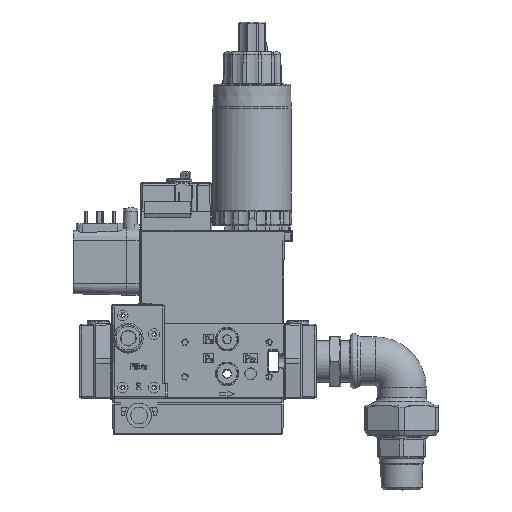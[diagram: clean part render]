
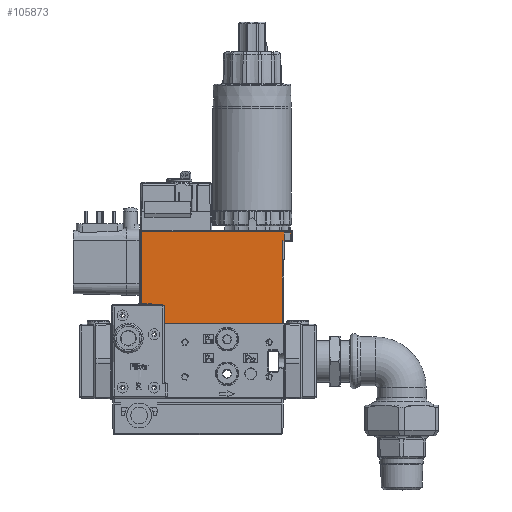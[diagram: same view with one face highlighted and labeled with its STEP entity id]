
A CAD part, top view. The second image highlights one B-rep face of the part: STEP entity #105873.
In plain terms, the highlighted planar face has unit normal (0, -0.006, 1).
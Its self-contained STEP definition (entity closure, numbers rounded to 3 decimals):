
#976 = DIRECTION ( 'NONE',  ( 0.006, -1., -0.006 ) ) ;
#1155 = EDGE_CURVE ( 'NONE', #57394, #39606, #17053, .T. ) ;
#1590 = EDGE_CURVE ( 'NONE', #80376, #73878, #94776, .T. ) ;
#1740 = DIRECTION ( 'NONE',  ( 1., 0., 0. ) ) ;
#2260 = ORIENTED_EDGE ( 'NONE', *, *, #85683, .T. ) ;
#2694 = CARTESIAN_POINT ( 'NONE',  ( 64.083, -60.5, 36.151 ) ) ;
#7165 = ORIENTED_EDGE ( 'NONE', *, *, #1590, .T. ) ;
#9147 = CARTESIAN_POINT ( 'NONE',  ( 64.083, -60.5, 36.151 ) ) ;
#11532 = VECTOR ( 'NONE', #1740, 1000. ) ;
#12966 = VECTOR ( 'NONE', #64039, 1000. ) ;
#13457 = VECTOR ( 'NONE', #976, 1000. ) ;
#13613 = CARTESIAN_POINT ( 'NONE',  ( -18.417, -60.5, 36.151 ) ) ;
#13848 = VECTOR ( 'NONE', #82999, 1000. ) ;
#17053 = LINE ( 'NONE', #49691, #76823 ) ;
#17273 = CARTESIAN_POINT ( 'NONE',  ( 64.388, -8., 36.456 ) ) ;
#17680 = DIRECTION ( 'NONE',  ( 1., 0., 0. ) ) ;
#19688 = CARTESIAN_POINT ( 'NONE',  ( 68.974, -8., 36.456 ) ) ;
#20164 = DIRECTION ( 'NONE',  ( 0., -0.006, 1. ) ) ;
#21430 = CARTESIAN_POINT ( 'NONE',  ( -26.517, -48.2, 36.222 ) ) ;
#22014 = CARTESIAN_POINT ( 'NONE',  ( 64.083, -8., 36.456 ) ) ;
#22193 = EDGE_LOOP ( 'NONE', ( #37015, #113937, #69497, #83292, #60497, #99963, #70221, #85208, #2260, #32895, #94759, #26487, #7165, #75776, #77383 ) ) ;
#22559 = DIRECTION ( 'NONE',  ( 0., -1., -0.006 ) ) ;
#24474 = CARTESIAN_POINT ( 'NONE',  ( 63.083, -60.5, 36.151 ) ) ;
#26487 = ORIENTED_EDGE ( 'NONE', *, *, #90130, .T. ) ;
#26597 = CARTESIAN_POINT ( 'NONE',  ( 64.083, -3., 36.485 ) ) ;
#28645 = LINE ( 'NONE', #75932, #38436 ) ;
#29885 = CARTESIAN_POINT ( 'NONE',  ( -18.417, -60.5, 36.151 ) ) ;
#30675 = VECTOR ( 'NONE', #65537, 1000. ) ;
#30958 = VECTOR ( 'NONE', #55580, 1000. ) ;
#32895 = ORIENTED_EDGE ( 'NONE', *, *, #83947, .T. ) ;
#35796 = EDGE_CURVE ( 'NONE', #73878, #76319, #68278, .T. ) ;
#36299 = EDGE_CURVE ( 'NONE', #52707, #91307, #76847, .T. ) ;
#36537 = LINE ( 'NONE', #73334, #30958 ) ;
#36692 = CARTESIAN_POINT ( 'NONE',  ( 41.326, -2.003, 36.491 ) ) ;
#37015 = ORIENTED_EDGE ( 'NONE', *, *, #43413, .T. ) ;
#37865 = CARTESIAN_POINT ( 'NONE',  ( 68.444, -3., 36.485 ) ) ;
#38436 = VECTOR ( 'NONE', #39462, 1000. ) ;
#38677 = VERTEX_POINT ( 'NONE', #108880 ) ;
#39462 = DIRECTION ( 'NONE',  ( 1., 0., 0. ) ) ;
#39606 = VERTEX_POINT ( 'NONE', #41981 ) ;
#41981 = CARTESIAN_POINT ( 'NONE',  ( -20.217, -48.2, 36.222 ) ) ;
#42568 = VERTEX_POINT ( 'NONE', #49550 ) ;
#42610 = CARTESIAN_POINT ( 'NONE',  ( -20.217, -48.2, 36.222 ) ) ;
#43413 = EDGE_CURVE ( 'NONE', #89349, #38677, #97289, .T. ) ;
#44350 = EDGE_CURVE ( 'NONE', #70197, #114166, #92813, .T. ) ;
#44600 = VECTOR ( 'NONE', #70539, 1000. ) ;
#45717 = EDGE_CURVE ( 'NONE', #55858, #70197, #28645, .T. ) ;
#47917 = FACE_OUTER_BOUND ( 'NONE', #22193, .T. ) ;
#48847 = VERTEX_POINT ( 'NONE', #114598 ) ;
#49550 = CARTESIAN_POINT ( 'NONE',  ( -17.837, -60.5, 36.151 ) ) ;
#49691 = CARTESIAN_POINT ( 'NONE',  ( 64.083, -48.2, 36.222 ) ) ;
#50845 = EDGE_CURVE ( 'NONE', #39606, #55858, #102142, .T. ) ;
#51006 = DIRECTION ( 'NONE',  ( 0.006, 1., 0.006 ) ) ;
#51029 = EDGE_CURVE ( 'NONE', #38677, #91307, #114611, .T. ) ;
#52466 = LINE ( 'NONE', #37865, #13457 ) ;
#52707 = VERTEX_POINT ( 'NONE', #86261 ) ;
#53865 = VECTOR ( 'NONE', #74756, 1000. ) ;
#54604 = CARTESIAN_POINT ( 'NONE',  ( -20.174, -55.5, 36.18 ) ) ;
#54839 = VECTOR ( 'NONE', #114250, 1000. ) ;
#55580 = DIRECTION ( 'NONE',  ( 0.006, -1., -0.006 ) ) ;
#55858 = VERTEX_POINT ( 'NONE', #54604 ) ;
#56131 = EDGE_CURVE ( 'NONE', #76319, #89349, #52466, .T. ) ;
#57394 = VERTEX_POINT ( 'NONE', #21430 ) ;
#57797 = VECTOR ( 'NONE', #108864, 1000. ) ;
#57840 = CARTESIAN_POINT ( 'NONE',  ( 63.083, -60.5, 36.151 ) ) ;
#59359 = DIRECTION ( 'NONE',  ( 1., 0., 0. ) ) ;
#60497 = ORIENTED_EDGE ( 'NONE', *, *, #1155, .T. ) ;
#60721 = CARTESIAN_POINT ( 'NONE',  ( 68.474, -8., 36.456 ) ) ;
#60872 = AXIS2_PLACEMENT_3D ( 'NONE', #2694, #20164, #73363 ) ;
#64039 = DIRECTION ( 'NONE',  ( 0.006, 1., 0.006 ) ) ;
#65537 = DIRECTION ( 'NONE',  ( 0.006, 1., 0.006 ) ) ;
#66833 = CARTESIAN_POINT ( 'NONE',  ( 69.008, -2.003, 36.491 ) ) ;
#67099 = CARTESIAN_POINT ( 'NONE',  ( 64.388, -8., 36.456 ) ) ;
#68278 = LINE ( 'NONE', #26597, #44600 ) ;
#69497 = ORIENTED_EDGE ( 'NONE', *, *, #36299, .F. ) ;
#70197 = VERTEX_POINT ( 'NONE', #87230 ) ;
#70221 = ORIENTED_EDGE ( 'NONE', *, *, #45717, .T. ) ;
#70539 = DIRECTION ( 'NONE',  ( 1., 0., 0. ) ) ;
#71641 = LINE ( 'NONE', #88937, #57797 ) ;
#73334 = CARTESIAN_POINT ( 'NONE',  ( -26.786, -2.003, 36.491 ) ) ;
#73363 = DIRECTION ( 'NONE',  ( 0., -1., -0.006 ) ) ;
#73878 = VERTEX_POINT ( 'NONE', #111178 ) ;
#74756 = DIRECTION ( 'NONE',  ( 1., 0., 0. ) ) ;
#75776 = ORIENTED_EDGE ( 'NONE', *, *, #35796, .T. ) ;
#75932 = CARTESIAN_POINT ( 'NONE',  ( 64.083, -55.5, 36.18 ) ) ;
#76319 = VERTEX_POINT ( 'NONE', #94586 ) ;
#76823 = VECTOR ( 'NONE', #59359, 1000. ) ;
#76847 = LINE ( 'NONE', #36692, #11532 ) ;
#77381 = LINE ( 'NONE', #110286, #53865 ) ;
#77383 = ORIENTED_EDGE ( 'NONE', *, *, #56131, .T. ) ;
#80376 = VERTEX_POINT ( 'NONE', #17273 ) ;
#81578 = VECTOR ( 'NONE', #22559, 1000. ) ;
#82999 = DIRECTION ( 'NONE',  ( 1., 0., 0. ) ) ;
#83292 = ORIENTED_EDGE ( 'NONE', *, *, #85179, .T. ) ;
#83947 = EDGE_CURVE ( 'NONE', #42568, #111855, #77381, .T. ) ;
#84829 = EDGE_CURVE ( 'NONE', #111855, #48847, #93674, .T. ) ;
#85179 = EDGE_CURVE ( 'NONE', #52707, #57394, #36537, .T. ) ;
#85208 = ORIENTED_EDGE ( 'NONE', *, *, #44350, .T. ) ;
#85683 = EDGE_CURVE ( 'NONE', #114166, #42568, #103202, .T. ) ;
#86261 = CARTESIAN_POINT ( 'NONE',  ( -26.786, -2.003, 36.491 ) ) ;
#87230 = CARTESIAN_POINT ( 'NONE',  ( -18.417, -55.5, 36.18 ) ) ;
#88937 = CARTESIAN_POINT ( 'NONE',  ( 64.083, -8., 36.456 ) ) ;
#89349 = VERTEX_POINT ( 'NONE', #60721 ) ;
#90130 = EDGE_CURVE ( 'NONE', #48847, #80376, #71641, .T. ) ;
#91307 = VERTEX_POINT ( 'NONE', #66833 ) ;
#92315 = VECTOR ( 'NONE', #51006, 1000. ) ;
#92813 = LINE ( 'NONE', #13613, #81578 ) ;
#93674 = LINE ( 'NONE', #24474, #92315 ) ;
#94586 = CARTESIAN_POINT ( 'NONE',  ( 68.444, -3., 36.485 ) ) ;
#94759 = ORIENTED_EDGE ( 'NONE', *, *, #84829, .T. ) ;
#94776 = LINE ( 'NONE', #67099, #30675 ) ;
#97289 = LINE ( 'NONE', #22014, #13848 ) ;
#98369 = PLANE ( 'NONE',  #60872 ) ;
#99963 = ORIENTED_EDGE ( 'NONE', *, *, #50845, .T. ) ;
#102142 = LINE ( 'NONE', #42610, #54839 ) ;
#103202 = LINE ( 'NONE', #9147, #111634 ) ;
#105873 = ADVANCED_FACE ( 'NONE', ( #47917 ), #98369, .T. ) ;
#108864 = DIRECTION ( 'NONE',  ( 1., 0., 0. ) ) ;
#108880 = CARTESIAN_POINT ( 'NONE',  ( 68.974, -8., 36.456 ) ) ;
#110286 = CARTESIAN_POINT ( 'NONE',  ( 64.083, -60.5, 36.151 ) ) ;
#111178 = CARTESIAN_POINT ( 'NONE',  ( 64.418, -3., 36.485 ) ) ;
#111634 = VECTOR ( 'NONE', #17680, 1000. ) ;
#111855 = VERTEX_POINT ( 'NONE', #57840 ) ;
#113937 = ORIENTED_EDGE ( 'NONE', *, *, #51029, .T. ) ;
#114166 = VERTEX_POINT ( 'NONE', #29885 ) ;
#114250 = DIRECTION ( 'NONE',  ( 0.006, -1., -0.006 ) ) ;
#114598 = CARTESIAN_POINT ( 'NONE',  ( 63.389, -8., 36.456 ) ) ;
#114611 = LINE ( 'NONE', #19688, #12966 ) ;
